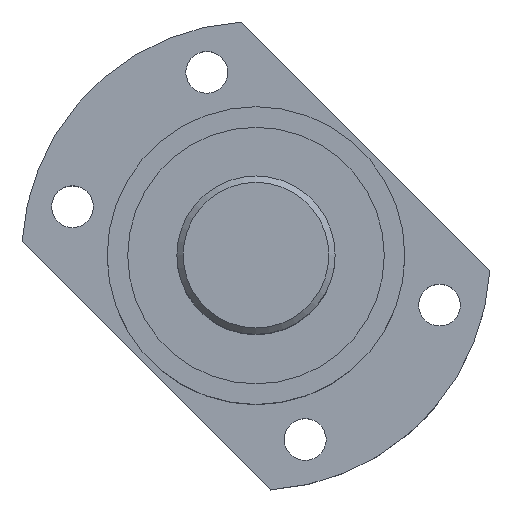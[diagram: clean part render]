
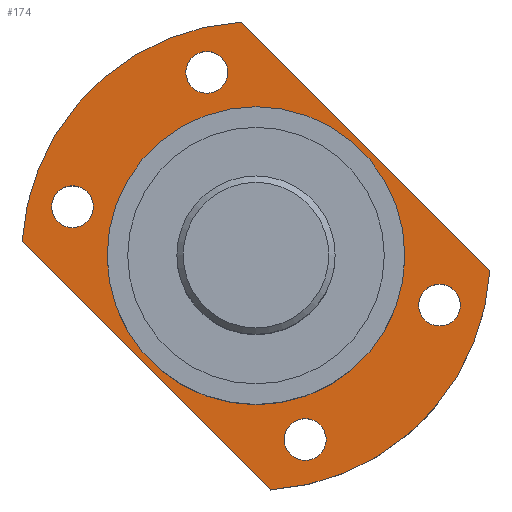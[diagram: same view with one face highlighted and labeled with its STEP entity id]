
A CAD part, top view. The second image highlights one B-rep face of the part: STEP entity #174.
In plain terms, the highlighted planar face has unit normal (0, 0, 1) as drawn and (1, 0, 0) by its records, which use the part's own axes.
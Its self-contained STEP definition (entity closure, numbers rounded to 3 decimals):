
#118=LINE('',#1260,#126);
#120=LINE('',#1264,#128);
#126=VECTOR('',#940,1.);
#128=VECTOR('',#944,1.);
#140=PLANE('',#788);
#174=ADVANCED_FACE('',(#275,#276,#277,#278,#279,#280),#140,.F.);
#275=FACE_BOUND('',#377,.T.);
#276=FACE_BOUND('',#378,.T.);
#277=FACE_BOUND('',#379,.T.);
#278=FACE_BOUND('',#380,.T.);
#279=FACE_BOUND('',#381,.T.);
#280=FACE_BOUND('',#382,.T.);
#377=EDGE_LOOP('',(#495));
#378=EDGE_LOOP('',(#496));
#379=EDGE_LOOP('',(#497));
#380=EDGE_LOOP('',(#498));
#381=EDGE_LOOP('',(#499));
#382=EDGE_LOOP('',(#500,#501,#502,#503));
#495=ORIENTED_EDGE('',*,*,#629,.T.);
#496=ORIENTED_EDGE('',*,*,#655,.T.);
#497=ORIENTED_EDGE('',*,*,#656,.T.);
#498=ORIENTED_EDGE('',*,*,#657,.T.);
#499=ORIENTED_EDGE('',*,*,#658,.T.);
#500=ORIENTED_EDGE('',*,*,#654,.F.);
#501=ORIENTED_EDGE('',*,*,#659,.F.);
#502=ORIENTED_EDGE('',*,*,#652,.F.);
#503=ORIENTED_EDGE('',*,*,#649,.F.);
#571=VERTEX_POINT('',#1090);
#590=VERTEX_POINT('',#1253);
#591=VERTEX_POINT('',#1255);
#592=VERTEX_POINT('',#1259);
#593=VERTEX_POINT('',#1263);
#594=VERTEX_POINT('',#1267);
#595=VERTEX_POINT('',#1269);
#596=VERTEX_POINT('',#1271);
#597=VERTEX_POINT('',#1273);
#629=EDGE_CURVE('',#571,#571,#691,.T.);
#649=EDGE_CURVE('',#590,#591,#706,.T.);
#652=EDGE_CURVE('',#591,#592,#118,.T.);
#654=EDGE_CURVE('',#593,#590,#120,.T.);
#655=EDGE_CURVE('',#594,#594,#707,.T.);
#656=EDGE_CURVE('',#595,#595,#708,.T.);
#657=EDGE_CURVE('',#596,#596,#709,.T.);
#658=EDGE_CURVE('',#597,#597,#710,.T.);
#659=EDGE_CURVE('',#592,#593,#711,.T.);
#691=CIRCLE('',#753,23.5);
#706=CIRCLE('',#779,37.);
#707=CIRCLE('',#783,3.3);
#708=CIRCLE('',#784,3.3);
#709=CIRCLE('',#785,3.3);
#710=CIRCLE('',#786,3.3);
#711=CIRCLE('',#787,37.);
#753=AXIS2_PLACEMENT_3D('',#1089,#879,#880);
#779=AXIS2_PLACEMENT_3D('',#1254,#934,#935);
#783=AXIS2_PLACEMENT_3D('',#1266,#947,#948);
#784=AXIS2_PLACEMENT_3D('',#1268,#949,#950);
#785=AXIS2_PLACEMENT_3D('',#1270,#951,#952);
#786=AXIS2_PLACEMENT_3D('',#1272,#953,#954);
#787=AXIS2_PLACEMENT_3D('',#1274,#955,#956);
#788=AXIS2_PLACEMENT_3D('',#1275,#957,#958);
#879=DIRECTION('',(-1.,0.,0.));
#880=DIRECTION('',(0.,0.,1.));
#934=DIRECTION('',(-1.,0.,0.));
#935=DIRECTION('',(0.,0.707,0.707));
#940=DIRECTION('',(0.,0.707,0.707));
#944=DIRECTION('',(0.,-0.707,-0.707));
#947=DIRECTION('',(-1.,0.,0.));
#948=DIRECTION('',(0.,0.707,0.707));
#949=DIRECTION('',(-1.,0.,0.));
#950=DIRECTION('',(0.,0.707,0.707));
#951=DIRECTION('',(-1.,0.,0.));
#952=DIRECTION('',(0.,0.707,0.707));
#953=DIRECTION('',(-1.,0.,0.));
#954=DIRECTION('',(0.,0.707,0.707));
#955=DIRECTION('',(-1.,0.,0.));
#956=DIRECTION('',(0.,0.707,0.707));
#957=DIRECTION('',(-1.,0.,0.));
#958=DIRECTION('',(0.,0.707,0.707));
#1089=CARTESIAN_POINT('',(156.375,65.599,0.));
#1090=CARTESIAN_POINT('',(156.375,65.599,23.5));
#1253=CARTESIAN_POINT('',(156.375,63.318,-36.93));
#1254=CARTESIAN_POINT('',(156.375,65.599,0.));
#1255=CARTESIAN_POINT('',(156.375,28.67,-2.281));
#1259=CARTESIAN_POINT('',(156.375,67.881,36.93));
#1260=CARTESIAN_POINT('',(156.375,48.275,17.324));
#1263=CARTESIAN_POINT('',(156.375,102.529,2.281));
#1264=CARTESIAN_POINT('',(156.375,82.924,-17.324));
#1266=CARTESIAN_POINT('',(156.375,94.577,7.765));
#1267=CARTESIAN_POINT('',(156.375,96.911,10.098));
#1268=CARTESIAN_POINT('',(156.375,73.364,28.978));
#1269=CARTESIAN_POINT('',(156.375,75.697,31.311));
#1270=CARTESIAN_POINT('',(156.375,57.835,-28.978));
#1271=CARTESIAN_POINT('',(156.375,60.168,-26.644));
#1272=CARTESIAN_POINT('',(156.375,36.622,-7.765));
#1273=CARTESIAN_POINT('',(156.375,38.955,-5.431));
#1274=CARTESIAN_POINT('',(156.375,65.599,0.));
#1275=CARTESIAN_POINT('',(156.375,65.599,0.));
